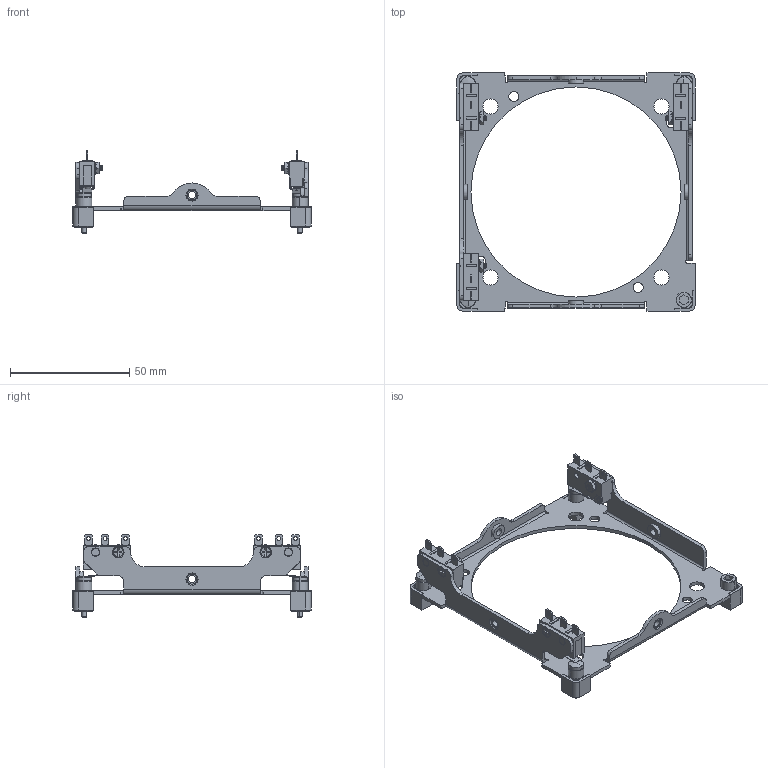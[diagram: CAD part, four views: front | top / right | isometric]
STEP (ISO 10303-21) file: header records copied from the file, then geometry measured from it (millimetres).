
FILE_DESCRIPTION (( 'STEP AP203' ), '1' );
FILE_NAME ('711-01873 Cover Plate, Large Aperture, QuadSwitch (Tab-2 Delete).STEP', '2024-06-25T03:39:14', ( '' ), ( '' ), 'SwSTEP 2.0', 'SolidWorks 2020', '' );
FILE_SCHEMA (( 'CONFIG_CONTROL_DESIGN' ));
Length unit declared in the file: inch
Products named in the file (1): 711-01873 Cover Plate, Large Aperture, QuadSwitch (Tab-2 Delete)
Bounding box: 100 x 100 x 34.65 mm (x, y, z)
Volume: 15376 mm3; surface area: 17774.5 mm2
Topology: 1 solids, 1 shells, 908 faces, 2327 edges, 1502 vertices
Faces by surface type: plane 544, cylinder 234, cone 94, torus 24, sphere 12
Entity records: 27750 total; most frequent: CARTESIAN_POINT 5143, DIRECTION 4701, ORIENTED_EDGE 4654, EDGE_CURVE 2327, LINE 1591, VECTOR 1591, AXIS2_PLACEMENT_3D 1555, VERTEX_POINT 1502
